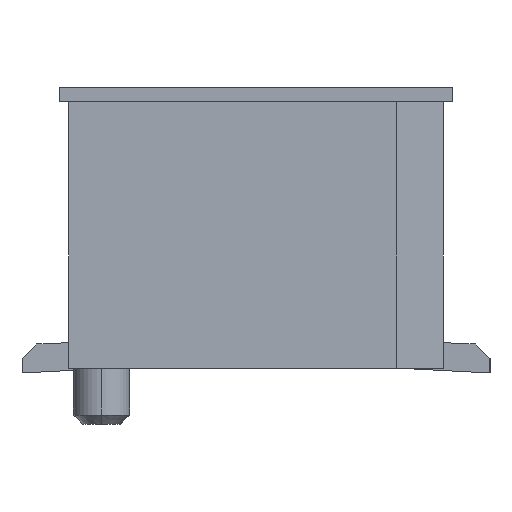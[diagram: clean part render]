
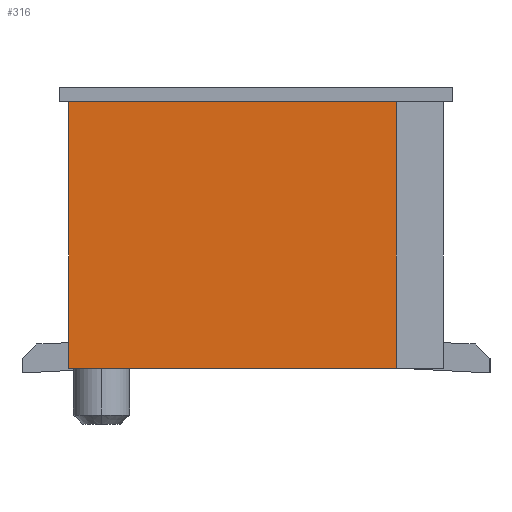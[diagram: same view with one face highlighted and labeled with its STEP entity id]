
A CAD part, left-side view. The second image highlights one B-rep face of the part: STEP entity #316.
In plain terms, the highlighted planar face has unit normal (-1, 0, 0).
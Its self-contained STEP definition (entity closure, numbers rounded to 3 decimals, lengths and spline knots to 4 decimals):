
#277=CARTESIAN_POINT('Axis2P3D Location',(-10.95,0.,0.)) ;
#282=CARTESIAN_POINT('Line Origine',(-10.95,-1.5,1.425)) ;
#286=CARTESIAN_POINT('Vertex',(-10.95,-1.5,2.85)) ;
#288=CARTESIAN_POINT('Vertex',(-10.95,-1.5,0.)) ;
#291=CARTESIAN_POINT('Line Origine',(-10.95,0.25,2.85)) ;
#295=CARTESIAN_POINT('Vertex',(-10.95,2.,2.85)) ;
#298=CARTESIAN_POINT('Line Origine',(-10.95,2.,1.425)) ;
#302=CARTESIAN_POINT('Vertex',(-10.95,2.,0.)) ;
#305=CARTESIAN_POINT('Line Origine',(-10.95,0.25,0.)) ;
#278=DIRECTION('Axis2P3D Direction',(1.,0.,0.)) ;
#279=DIRECTION('Axis2P3D XDirection',(0.,1.,0.)) ;
#283=DIRECTION('Vector Direction',(0.,0.,-1.)) ;
#292=DIRECTION('Vector Direction',(0.,-1.,0.)) ;
#299=DIRECTION('Vector Direction',(0.,0.,1.)) ;
#306=DIRECTION('Vector Direction',(0.,1.,0.)) ;
#280=AXIS2_PLACEMENT_3D('Plane Axis2P3D',#277,#278,#279) ;
#311=ORIENTED_EDGE('',*,*,#290,.F.) ;
#312=ORIENTED_EDGE('',*,*,#297,.F.) ;
#313=ORIENTED_EDGE('',*,*,#304,.F.) ;
#314=ORIENTED_EDGE('',*,*,#309,.F.) ;
#284=VECTOR('Line Direction',#283,1.) ;
#293=VECTOR('Line Direction',#292,1.) ;
#300=VECTOR('Line Direction',#299,1.) ;
#307=VECTOR('Line Direction',#306,1.) ;
#316=ADVANCED_FACE('\X2\96F64EF651E04F554F53\X0\',(#315),#281,.F.) ;
#290=EDGE_CURVE('',#287,#289,#285,.T.) ;
#297=EDGE_CURVE('',#296,#287,#294,.T.) ;
#304=EDGE_CURVE('',#303,#296,#301,.T.) ;
#309=EDGE_CURVE('',#289,#303,#308,.T.) ;
#310=EDGE_LOOP('',(#311,#312,#313,#314)) ;
#315=FACE_OUTER_BOUND('',#310,.T.) ;
#285=LINE('Line',#282,#284) ;
#294=LINE('Line',#291,#293) ;
#301=LINE('Line',#298,#300) ;
#308=LINE('Line',#305,#307) ;
#281=PLANE('Plane',#280) ;
#287=VERTEX_POINT('',#286) ;
#289=VERTEX_POINT('',#288) ;
#296=VERTEX_POINT('',#295) ;
#303=VERTEX_POINT('',#302) ;
